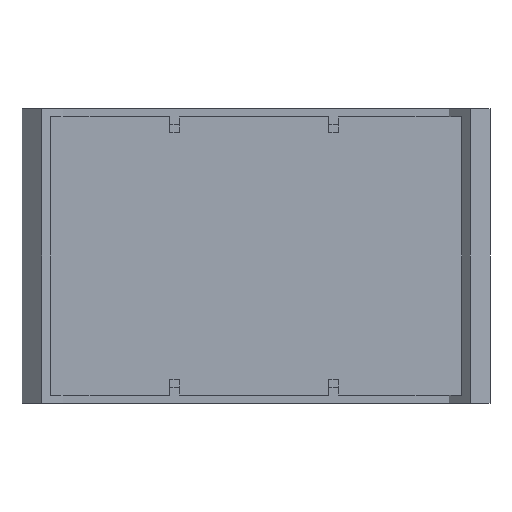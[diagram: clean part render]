
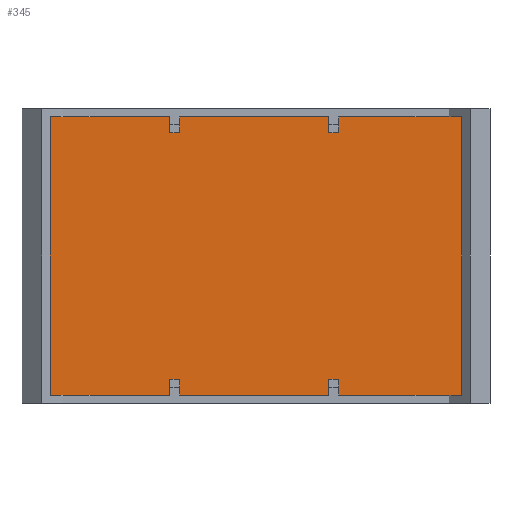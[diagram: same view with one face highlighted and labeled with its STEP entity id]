
A CAD part, front view. The second image highlights one B-rep face of the part: STEP entity #345.
In plain terms, the highlighted planar face has unit normal (0, -1, 0).
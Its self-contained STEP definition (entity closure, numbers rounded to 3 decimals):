
#4 = CARTESIAN_POINT ( 'NONE',  ( 0., 2.319, 0. ) ) ;
#9 = CARTESIAN_POINT ( 'NONE',  ( 73.055, 2.319, 72. ) ) ;
#11 = DIRECTION ( 'NONE',  ( -1., 0., 0. ) ) ;
#16 = CARTESIAN_POINT ( 'NONE',  ( 42.055, 2.319, 6. ) ) ;
#17 = EDGE_CURVE ( 'NONE', #834, #106, #257, .T. ) ;
#22 = VECTOR ( 'NONE', #844, 1000. ) ;
#23 = CARTESIAN_POINT ( 'NONE',  ( -0.445, 2.319, 6. ) ) ;
#28 = LINE ( 'NONE', #513, #1117 ) ;
#39 = VECTOR ( 'NONE', #766, 1000. ) ;
#74 = EDGE_CURVE ( 'NONE', #610, #738, #943, .T. ) ;
#81 = VECTOR ( 'NONE', #440, 1000. ) ;
#84 = EDGE_CURVE ( 'NONE', #854, #197, #750, .T. ) ;
#85 = EDGE_CURVE ( 'NONE', #1043, #1250, #334, .T. ) ;
#89 = CARTESIAN_POINT ( 'NONE',  ( -0.445, 2.319, 68. ) ) ;
#106 = VERTEX_POINT ( 'NONE', #755 ) ;
#110 = CARTESIAN_POINT ( 'NONE',  ( -30.445, 2.319, 72. ) ) ;
#122 = CARTESIAN_POINT ( 'NONE',  ( -0.445, 2.319, 68. ) ) ;
#133 = LINE ( 'NONE', #1133, #439 ) ;
#157 = EDGE_CURVE ( 'NONE', #1043, #430, #784, .T. ) ;
#159 = DIRECTION ( 'NONE',  ( -1., 0., 0. ) ) ;
#161 = CARTESIAN_POINT ( 'NONE',  ( 73.055, 2.319, 2. ) ) ;
#163 = CARTESIAN_POINT ( 'NONE',  ( -30.445, 2.319, 2. ) ) ;
#169 = VECTOR ( 'NONE', #395, 1000. ) ;
#187 = EDGE_CURVE ( 'NONE', #318, #590, #591, .T. ) ;
#197 = VERTEX_POINT ( 'NONE', #425 ) ;
#198 = LINE ( 'NONE', #650, #1277 ) ;
#212 = CARTESIAN_POINT ( 'NONE',  ( -0.445, 2.319, 6. ) ) ;
#214 = DIRECTION ( 'NONE',  ( 0., -1., 0. ) ) ;
#238 = ORIENTED_EDGE ( 'NONE', *, *, #856, .T. ) ;
#241 = VERTEX_POINT ( 'NONE', #857 ) ;
#248 = LINE ( 'NONE', #974, #39 ) ;
#254 = VERTEX_POINT ( 'NONE', #323 ) ;
#257 = LINE ( 'NONE', #163, #378 ) ;
#262 = CARTESIAN_POINT ( 'NONE',  ( 39.555, 2.319, 68. ) ) ;
#263 = ORIENTED_EDGE ( 'NONE', *, *, #685, .T. ) ;
#272 = EDGE_CURVE ( 'NONE', #254, #300, #692, .T. ) ;
#289 = VECTOR ( 'NONE', #1196, 1000. ) ;
#290 = VERTEX_POINT ( 'NONE', #122 ) ;
#300 = VERTEX_POINT ( 'NONE', #212 ) ;
#318 = VERTEX_POINT ( 'NONE', #947 ) ;
#322 = DIRECTION ( 'NONE',  ( -1., 0., 0. ) ) ;
#323 = CARTESIAN_POINT ( 'NONE',  ( 2.055, 2.319, 6. ) ) ;
#325 = ORIENTED_EDGE ( 'NONE', *, *, #961, .T. ) ;
#326 = CARTESIAN_POINT ( 'NONE',  ( 39.555, 2.319, 68. ) ) ;
#331 = CARTESIAN_POINT ( 'NONE',  ( 2.055, 2.319, 6. ) ) ;
#334 = LINE ( 'NONE', #326, #1109 ) ;
#345 = ADVANCED_FACE ( 'NONE', ( #492 ), #1256, .T. ) ;
#355 = VERTEX_POINT ( 'NONE', #9 ) ;
#357 = CARTESIAN_POINT ( 'NONE',  ( -30.445, 2.319, 72. ) ) ;
#368 = DIRECTION ( 'NONE',  ( 1., 0., 0. ) ) ;
#369 = CARTESIAN_POINT ( 'NONE',  ( 42.055, 2.319, 68. ) ) ;
#378 = VECTOR ( 'NONE', #368, 1000. ) ;
#380 = CARTESIAN_POINT ( 'NONE',  ( 39.555, 2.319, 6. ) ) ;
#382 = LINE ( 'NONE', #89, #408 ) ;
#383 = ORIENTED_EDGE ( 'NONE', *, *, #1345, .F. ) ;
#395 = DIRECTION ( 'NONE',  ( 0., 0., 1. ) ) ;
#400 = VECTOR ( 'NONE', #11, 1000. ) ;
#408 = VECTOR ( 'NONE', #931, 1000. ) ;
#425 = CARTESIAN_POINT ( 'NONE',  ( 39.555, 2.319, 2. ) ) ;
#430 = VERTEX_POINT ( 'NONE', #645 ) ;
#432 = DIRECTION ( 'NONE',  ( 0., 0., -1. ) ) ;
#439 = VECTOR ( 'NONE', #508, 1000. ) ;
#440 = DIRECTION ( 'NONE',  ( 0., 0., 1. ) ) ;
#463 = CARTESIAN_POINT ( 'NONE',  ( 42.055, 2.319, 68. ) ) ;
#492 = FACE_OUTER_BOUND ( 'NONE', #1312, .T. ) ;
#497 = ORIENTED_EDGE ( 'NONE', *, *, #709, .F. ) ;
#498 = ORIENTED_EDGE ( 'NONE', *, *, #74, .F. ) ;
#503 = EDGE_CURVE ( 'NONE', #318, #290, #248, .T. ) ;
#506 = VECTOR ( 'NONE', #1169, 1000. ) ;
#508 = DIRECTION ( 'NONE',  ( 1., 0., 0. ) ) ;
#511 = CARTESIAN_POINT ( 'NONE',  ( 39.555, 2.319, 6. ) ) ;
#513 = CARTESIAN_POINT ( 'NONE',  ( -0.445, 2.319, 6. ) ) ;
#534 = CARTESIAN_POINT ( 'NONE',  ( -30.445, 2.319, 72. ) ) ;
#560 = ORIENTED_EDGE ( 'NONE', *, *, #157, .T. ) ;
#589 = CARTESIAN_POINT ( 'NONE',  ( -30.445, 2.319, 72. ) ) ;
#590 = VERTEX_POINT ( 'NONE', #1060 ) ;
#591 = LINE ( 'NONE', #534, #400 ) ;
#603 = ORIENTED_EDGE ( 'NONE', *, *, #272, .F. ) ;
#610 = VERTEX_POINT ( 'NONE', #16 ) ;
#621 = EDGE_CURVE ( 'NONE', #1250, #1222, #1096, .T. ) ;
#626 = LINE ( 'NONE', #380, #919 ) ;
#645 = CARTESIAN_POINT ( 'NONE',  ( 2.055, 2.319, 72. ) ) ;
#650 = CARTESIAN_POINT ( 'NONE',  ( 2.055, 2.319, 68. ) ) ;
#654 = ORIENTED_EDGE ( 'NONE', *, *, #951, .F. ) ;
#656 = DIRECTION ( 'NONE',  ( -1., 0., 0. ) ) ;
#657 = EDGE_CURVE ( 'NONE', #1149, #430, #198, .T. ) ;
#680 = ORIENTED_EDGE ( 'NONE', *, *, #85, .F. ) ;
#685 = EDGE_CURVE ( 'NONE', #1010, #798, #133, .T. ) ;
#692 = LINE ( 'NONE', #23, #767 ) ;
#709 = EDGE_CURVE ( 'NONE', #290, #1149, #382, .T. ) ;
#713 = LINE ( 'NONE', #589, #1230 ) ;
#738 = VERTEX_POINT ( 'NONE', #511 ) ;
#746 = CARTESIAN_POINT ( 'NONE',  ( 39.555, 2.319, 6. ) ) ;
#750 = LINE ( 'NONE', #853, #1237 ) ;
#754 = LINE ( 'NONE', #820, #169 ) ;
#755 = CARTESIAN_POINT ( 'NONE',  ( -0.445, 2.319, 2. ) ) ;
#766 = DIRECTION ( 'NONE',  ( 0., 0., -1. ) ) ;
#767 = VECTOR ( 'NONE', #656, 1000. ) ;
#770 = LINE ( 'NONE', #331, #81 ) ;
#780 = DIRECTION ( 'NONE',  ( 0., 0., -1. ) ) ;
#784 = LINE ( 'NONE', #110, #22 ) ;
#797 = CARTESIAN_POINT ( 'NONE',  ( -30.445, 2.319, 2. ) ) ;
#798 = VERTEX_POINT ( 'NONE', #161 ) ;
#810 = ORIENTED_EDGE ( 'NONE', *, *, #1335, .F. ) ;
#812 = ORIENTED_EDGE ( 'NONE', *, *, #17, .T. ) ;
#816 = VECTOR ( 'NONE', #159, 1000. ) ;
#817 = ORIENTED_EDGE ( 'NONE', *, *, #1127, .F. ) ;
#820 = CARTESIAN_POINT ( 'NONE',  ( 42.055, 2.319, 6. ) ) ;
#828 = VECTOR ( 'NONE', #322, 1000. ) ;
#834 = VERTEX_POINT ( 'NONE', #797 ) ;
#844 = DIRECTION ( 'NONE',  ( -1., 0., 0. ) ) ;
#853 = CARTESIAN_POINT ( 'NONE',  ( -30.445, 2.319, 2. ) ) ;
#854 = VERTEX_POINT ( 'NONE', #909 ) ;
#856 = EDGE_CURVE ( 'NONE', #590, #834, #713, .T. ) ;
#857 = CARTESIAN_POINT ( 'NONE',  ( 42.055, 2.319, 72. ) ) ;
#889 = ORIENTED_EDGE ( 'NONE', *, *, #187, .T. ) ;
#891 = CARTESIAN_POINT ( 'NONE',  ( 2.055, 2.319, 68. ) ) ;
#892 = LINE ( 'NONE', #463, #289 ) ;
#905 = CARTESIAN_POINT ( 'NONE',  ( 73.055, 2.319, 72. ) ) ;
#909 = CARTESIAN_POINT ( 'NONE',  ( 2.055, 2.319, 2. ) ) ;
#919 = VECTOR ( 'NONE', #1214, 1000. ) ;
#931 = DIRECTION ( 'NONE',  ( 1., 0., 0. ) ) ;
#943 = LINE ( 'NONE', #746, #828 ) ;
#947 = CARTESIAN_POINT ( 'NONE',  ( -0.445, 2.319, 72. ) ) ;
#950 = DIRECTION ( 'NONE',  ( 1., 0., 0. ) ) ;
#951 = EDGE_CURVE ( 'NONE', #1222, #241, #892, .T. ) ;
#958 = DIRECTION ( 'NONE',  ( 1., 0., 0. ) ) ;
#961 = EDGE_CURVE ( 'NONE', #355, #241, #1094, .T. ) ;
#964 = ORIENTED_EDGE ( 'NONE', *, *, #657, .F. ) ;
#974 = CARTESIAN_POINT ( 'NONE',  ( -0.445, 2.319, 68. ) ) ;
#1010 = VERTEX_POINT ( 'NONE', #1015 ) ;
#1015 = CARTESIAN_POINT ( 'NONE',  ( 42.055, 2.319, 2. ) ) ;
#1018 = EDGE_CURVE ( 'NONE', #798, #355, #1317, .T. ) ;
#1028 = ORIENTED_EDGE ( 'NONE', *, *, #84, .T. ) ;
#1043 = VERTEX_POINT ( 'NONE', #1130 ) ;
#1058 = ORIENTED_EDGE ( 'NONE', *, *, #1064, .F. ) ;
#1060 = CARTESIAN_POINT ( 'NONE',  ( -30.445, 2.319, 72. ) ) ;
#1064 = EDGE_CURVE ( 'NONE', #1010, #610, #754, .T. ) ;
#1066 = CARTESIAN_POINT ( 'NONE',  ( 39.555, 2.319, 68. ) ) ;
#1069 = DIRECTION ( 'NONE',  ( 0., 0., 1. ) ) ;
#1075 = ORIENTED_EDGE ( 'NONE', *, *, #621, .F. ) ;
#1077 = DIRECTION ( 'NONE',  ( 0., 0., -1. ) ) ;
#1094 = LINE ( 'NONE', #357, #816 ) ;
#1096 = LINE ( 'NONE', #1066, #506 ) ;
#1109 = VECTOR ( 'NONE', #432, 1000. ) ;
#1117 = VECTOR ( 'NONE', #780, 1000. ) ;
#1127 = EDGE_CURVE ( 'NONE', #300, #106, #28, .T. ) ;
#1130 = CARTESIAN_POINT ( 'NONE',  ( 39.555, 2.319, 72. ) ) ;
#1133 = CARTESIAN_POINT ( 'NONE',  ( -30.445, 2.319, 2. ) ) ;
#1140 = ORIENTED_EDGE ( 'NONE', *, *, #503, .F. ) ;
#1149 = VERTEX_POINT ( 'NONE', #891 ) ;
#1150 = ORIENTED_EDGE ( 'NONE', *, *, #1018, .T. ) ;
#1169 = DIRECTION ( 'NONE',  ( 1., 0., 0. ) ) ;
#1196 = DIRECTION ( 'NONE',  ( 0., 0., 1. ) ) ;
#1214 = DIRECTION ( 'NONE',  ( 0., 0., -1. ) ) ;
#1219 = DIRECTION ( 'NONE',  ( 0., 0., 1. ) ) ;
#1222 = VERTEX_POINT ( 'NONE', #369 ) ;
#1230 = VECTOR ( 'NONE', #1077, 1000. ) ;
#1237 = VECTOR ( 'NONE', #958, 1000. ) ;
#1248 = AXIS2_PLACEMENT_3D ( 'NONE', #4, #214, #950 ) ;
#1250 = VERTEX_POINT ( 'NONE', #262 ) ;
#1256 = PLANE ( 'NONE',  #1248 ) ;
#1275 = VECTOR ( 'NONE', #1219, 1000. ) ;
#1277 = VECTOR ( 'NONE', #1069, 1000. ) ;
#1312 = EDGE_LOOP ( 'NONE', ( #1028, #810, #498, #1058, #263, #1150, #325, #654, #1075, #680, #560, #964, #497, #1140, #889, #238, #812, #817, #603, #383 ) ) ;
#1317 = LINE ( 'NONE', #905, #1275 ) ;
#1335 = EDGE_CURVE ( 'NONE', #738, #197, #626, .T. ) ;
#1345 = EDGE_CURVE ( 'NONE', #854, #254, #770, .T. ) ;
